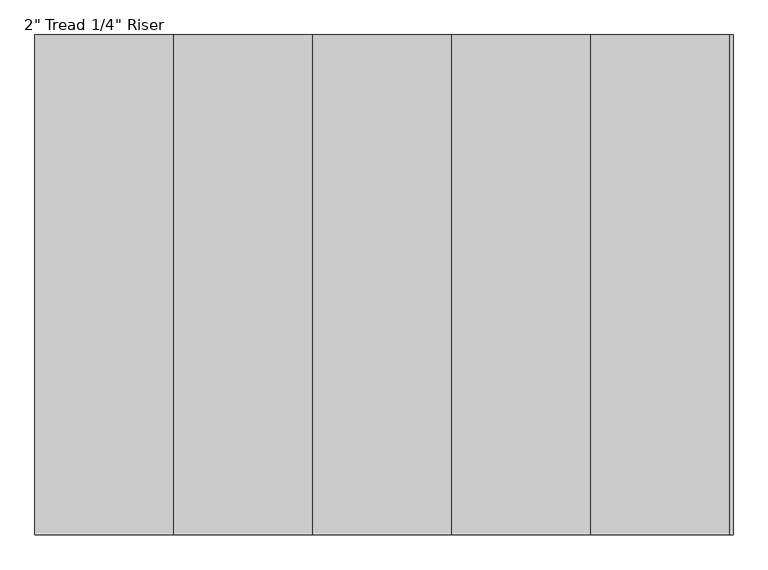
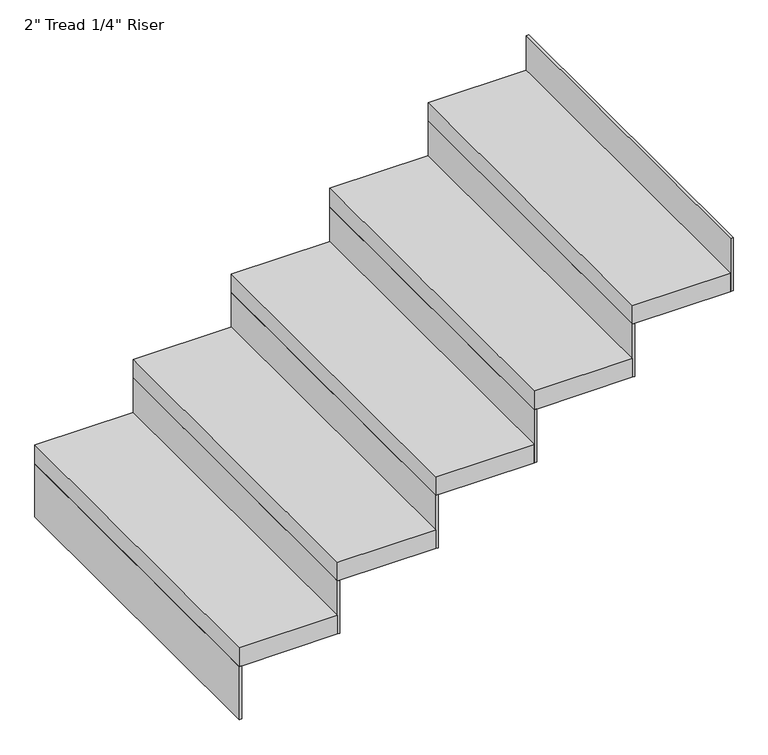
"""IFC4 building model written with IfcOpenShell, lengths in millimetres: stair flight geometry."""

from ifc_helpers import new_model, si_unit, frame, origin, place, context, project, spatial, polyline, outline, extrude, source, transform, mapped, element, save


def stair_flight_32618580(model_context):
    return source(origin(), model_context, "Body", "SweptSolid", [
        extrude(outline(polyline([(138179.3023809, -2400.7855758), (138172.9523809, -2400.7855758), (138172.9523809, -1486.3855758), (138179.3023809, -1486.3855758), (138179.3023809, -2400.7855758)])), frame((0.0, 0.0, 2126.3428571), z_axis=(0.0, 0.0, 1.0), x_axis=(1.0, 0.0, 0.0)), (0.0, 0.0, 1.0), 145.1428571),
        extrude(outline(polyline([(138426.9523809, -1486.3855758), (138426.9523809, -2400.7855758), (138172.9523809, -2400.7855758), (138172.9523809, -1486.3855758), (138426.9523809, -1486.3855758)])), frame((0.0, 0.0, 2271.4857143), z_axis=(0.0, 0.0, 1.0), x_axis=(1.0, 0.0, 0.0)), (0.0, 0.0, 1.0), 50.8),
        extrude(outline(polyline([(138433.3023809, -2400.7855758), (138426.9523809, -2400.7855758), (138426.9523809, -1486.3855758), (138433.3023809, -1486.3855758), (138433.3023809, -2400.7855758)])), frame((0.0, 0.0, 2271.4857143), z_axis=(0.0, 0.0, 1.0), x_axis=(1.0, 0.0, 0.0)), (0.0, 0.0, 1.0), 145.1428571),
        extrude(outline(polyline([(138680.9523809, -1486.3855758), (138680.9523809, -2400.7855758), (138426.9523809, -2400.7855758), (138426.9523809, -1486.3855758), (138680.9523809, -1486.3855758)])), frame((0.0, 0.0, 2416.6285714), z_axis=(0.0, 0.0, 1.0), x_axis=(1.0, 0.0, 0.0)), (0.0, 0.0, 1.0), 50.8),
        extrude(outline(polyline([(138687.3023809, -2400.7855758), (138680.9523809, -2400.7855758), (138680.9523809, -1486.3855758), (138687.3023809, -1486.3855758), (138687.3023809, -2400.7855758)])), frame((0.0, 0.0, 2416.6285714), z_axis=(0.0, 0.0, 1.0), x_axis=(1.0, 0.0, 0.0)), (0.0, 0.0, 1.0), 145.1428571),
        extrude(outline(polyline([(138934.9523809, -1486.3855758), (138934.9523809, -2400.7855758), (138680.9523809, -2400.7855758), (138680.9523809, -1486.3855758), (138934.9523809, -1486.3855758)])), frame((0.0, 0.0, 2561.7714286), z_axis=(0.0, 0.0, 1.0), x_axis=(1.0, 0.0, 0.0)), (0.0, 0.0, 1.0), 50.8),
        extrude(outline(polyline([(138941.3023809, -2400.7855758), (138934.9523809, -2400.7855758), (138934.9523809, -1486.3855758), (138941.3023809, -1486.3855758), (138941.3023809, -2400.7855758)])), frame((0.0, 0.0, 2561.7714286), z_axis=(0.0, 0.0, 1.0), x_axis=(1.0, 0.0, 0.0)), (0.0, 0.0, 1.0), 145.1428571),
        extrude(outline(polyline([(139188.9523809, -1486.3855758), (139188.9523809, -2400.7855758), (138934.9523809, -2400.7855758), (138934.9523809, -1486.3855758), (139188.9523809, -1486.3855758)])), frame((0.0, 0.0, 2706.9142857), z_axis=(0.0, 0.0, 1.0), x_axis=(1.0, 0.0, 0.0)), (0.0, 0.0, 1.0), 50.8),
        extrude(outline(polyline([(139195.3023809, -2400.7855758), (139188.9523809, -2400.7855758), (139188.9523809, -1486.3855758), (139195.3023809, -1486.3855758), (139195.3023809, -2400.7855758)])), frame((0.0, 0.0, 2706.9142857), z_axis=(0.0, 0.0, 1.0), x_axis=(1.0, 0.0, 0.0)), (0.0, 0.0, 1.0), 145.1428571),
        extrude(outline(polyline([(139449.3023809, -2400.7855758), (139442.9523809, -2400.7855758), (139442.9523809, -1486.3855758), (139449.3023809, -1486.3855758), (139449.3023809, -2400.7855758)])), frame((0.0, 0.0, 2852.0571429), z_axis=(0.0, 0.0, 1.0), x_axis=(1.0, 0.0, 0.0)), (0.0, 0.0, 1.0), 145.1428571),
        extrude(outline(polyline([(139442.9523809, -1486.3855758), (139442.9523809, -2400.7855758), (139188.9523809, -2400.7855758), (139188.9523809, -1486.3855758), (139442.9523809, -1486.3855758)])), frame((0.0, 0.0, 2852.0571429), z_axis=(0.0, 0.0, 1.0), x_axis=(1.0, 0.0, 0.0)), (0.0, 0.0, 1.0), 50.8),
    ])


if __name__ == "__main__":
    model = new_model("IFC4")
    model_context = context("Model", 3, world=origin())
    ifc_project = project(units=[si_unit("LENGTHUNIT", "METRE", prefix="MILLI")], contexts=[model_context])
    site = spatial("IfcSite", under=ifc_project)
    building = spatial("IfcBuilding", under=site)
    placement = place(None, origin())
    stair_flight_shape = stair_flight_32618580(model_context)
    element("IfcStairFlight", 1, ObjectType="2\" Tread 1/4\" Riser", at=placement, inside=building, context=model_context, shape_type="MappedRepresentation", body=[
        mapped(stair_flight_shape, transform((0.0, 0.0, 0.0), x_axis=(1.0, 0.0, 0.0), y_axis=(0.0, 1.0, 0.0), z_axis=(0.0, 0.0, 1.0))),
    ])
    save(model, "model.ifc")
